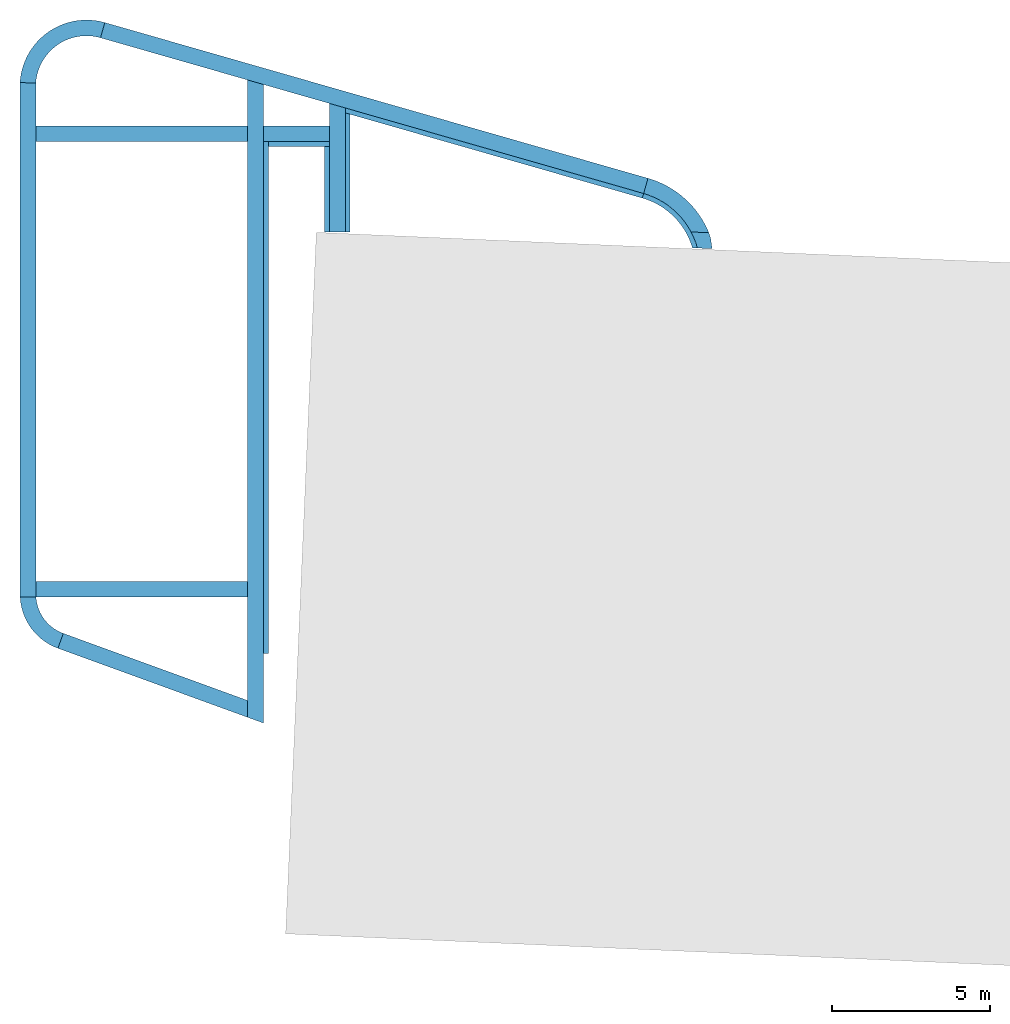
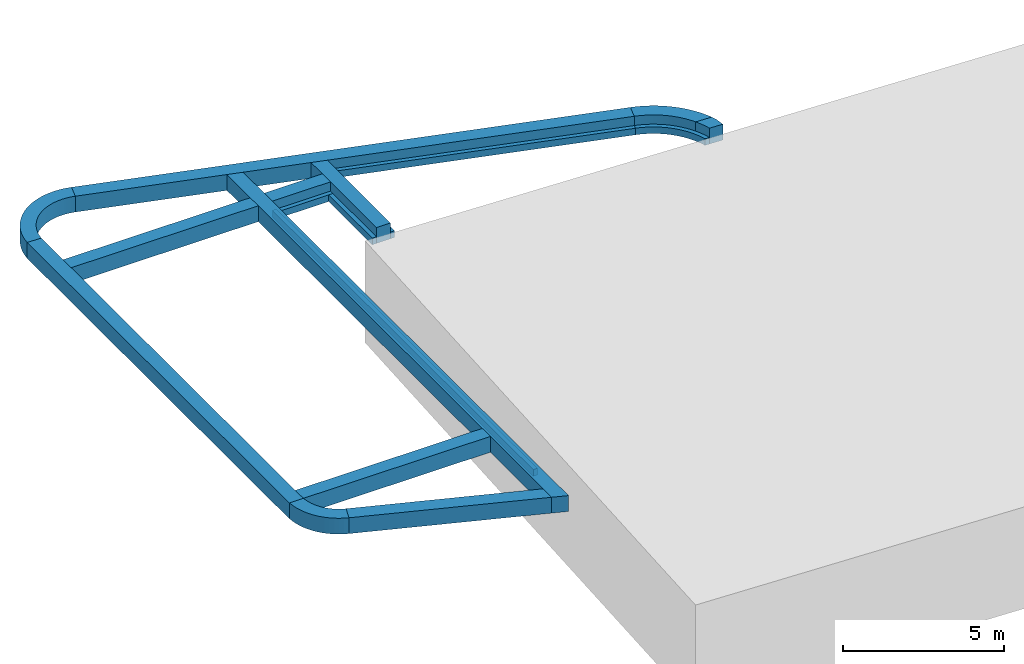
# One storey, part 1 of 2: 17 walls, 3 openings.
"""IFC2X3 building model written with IfcOpenShell, lengths in millimetres."""

from ifc_helpers import new_model, entity, si_unit, converted_unit, derived_unit, direction, frame, frame_2d, origin, origin_2d_with_axis, place, context, subcontext, project, spatial, polyline, circle_curve, parameter, trimmed, segment, composite_curve, rectangle, outline, extrude, material, layer, layer_set, layer_usage, type_object, element, save


model = new_model("IFC2X3")

# Units and contexts
model_context = context("Model", 3, precision=0.01, world=origin(), true_north=direction((6.12303176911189e-17, 1.0)))
context_of_model = context(None, 3, precision=0.01, world=origin(), true_north=direction((6.12303176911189e-17, 1.0)))
body_context = subcontext(model_context, "Body", "Model", "MODEL_VIEW")
ifc_project = project(units=[si_unit("LENGTHUNIT", "METRE", prefix="MILLI"), si_unit("AREAUNIT", "SQUARE_METRE"), si_unit("VOLUMEUNIT", "CUBIC_METRE"), converted_unit("PLANEANGLEUNIT", "DEGREE", entity("IfcRatioMeasure", 0.0174532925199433), si_unit("PLANEANGLEUNIT", "RADIAN"), dimensions=[0, 0, 0, 0, 0, 0, 0]), si_unit("MASSUNIT", "GRAM", prefix="KILO"), derived_unit("MASSDENSITYUNIT", [(si_unit("MASSUNIT", "GRAM", prefix="KILO"), 1), (si_unit("LENGTHUNIT", "METRE"), -3)]), derived_unit("MOMENTOFINERTIAUNIT", [(si_unit("LENGTHUNIT", "METRE"), 4)]), si_unit("TIMEUNIT", "SECOND"), si_unit("FREQUENCYUNIT", "HERTZ"), si_unit("THERMODYNAMICTEMPERATUREUNIT", "DEGREE_CELSIUS"), derived_unit("THERMALTRANSMITTANCEUNIT", [(si_unit("MASSUNIT", "GRAM", prefix="KILO"), 1), (si_unit("THERMODYNAMICTEMPERATUREUNIT", "KELVIN"), -1), (si_unit("TIMEUNIT", "SECOND"), -3)]), derived_unit("VOLUMETRICFLOWRATEUNIT", [(si_unit("LENGTHUNIT", "METRE"), 3), (si_unit("TIMEUNIT", "SECOND"), -1)]), si_unit("ELECTRICCURRENTUNIT", "AMPERE"), si_unit("ELECTRICVOLTAGEUNIT", "VOLT"), si_unit("POWERUNIT", "WATT"), si_unit("FORCEUNIT", "NEWTON", prefix="KILO"), si_unit("ILLUMINANCEUNIT", "LUX"), si_unit("LUMINOUSFLUXUNIT", "LUMEN"), si_unit("LUMINOUSINTENSITYUNIT", "CANDELA"), derived_unit("USERDEFINED", [(si_unit("MASSUNIT", "GRAM", prefix="KILO"), -1), (si_unit("LENGTHUNIT", "METRE"), -2), (si_unit("TIMEUNIT", "SECOND"), 3), (si_unit("LUMINOUSFLUXUNIT", "LUMEN"), 1)]), derived_unit("LINEARVELOCITYUNIT", [(si_unit("LENGTHUNIT", "METRE"), 1), (si_unit("TIMEUNIT", "SECOND"), -1)]), si_unit("PRESSUREUNIT", "PASCAL"), derived_unit("USERDEFINED", [(si_unit("LENGTHUNIT", "METRE"), -2), (si_unit("MASSUNIT", "GRAM", prefix="KILO"), 1), (si_unit("TIMEUNIT", "SECOND"), -2)]), derived_unit("LINEARFORCEUNIT", [(si_unit("MASSUNIT", "GRAM", prefix="KILO"), 1), (si_unit("LENGTHUNIT", "METRE"), 1), (si_unit("TIMEUNIT", "SECOND"), -2), (si_unit("LENGTHUNIT", "METRE"), -1)]), derived_unit("PLANARFORCEUNIT", [(si_unit("MASSUNIT", "GRAM", prefix="KILO"), 1), (si_unit("LENGTHUNIT", "METRE"), 1), (si_unit("TIMEUNIT", "SECOND"), -2), (si_unit("LENGTHUNIT", "METRE"), -2)])], contexts=[model_context, context_of_model])

# Site, building, storey
site_placement = place(None, origin())
site = spatial("IfcSite", under=ifc_project, at=site_placement, Name="Default", CompositionType="ELEMENT")
building_placement = place(site_placement, origin())
building = spatial("IfcBuilding", under=site, at=building_placement, Name="IFc", CompositionType="ELEMENT")
storey_placement = place(building_placement, frame((0.0, 0.0, -4000.0)))
storey = spatial("IfcBuildingStorey", under=building, at=storey_placement, Name="-01 kelder", CompositionType="ELEMENT", Elevation=-4000.0)

# Walls
ifc_material = material(Name="IMd_beton_IHWG")
ifc_layer_1 = layer(ifc_material, 500.0)
ifc_layer_set_1 = layer_set([ifc_layer_1], Name="Basic Wall:NLRS_16_WA Funderingsbalk_beton_ihwg_500x600")
ifc_layer_usage_1 = layer_usage(ifc_layer_set_1, "AXIS2", "NEGATIVE", 250.0)
wall_type_1 = type_object("IfcWallType", Name="Basic Wall:NLRS_16_WA Funderingsbalk_beton_ihwg_500x600", PredefinedType="STANDARD", material=ifc_layer_set_1)
wall_1_placement = place(storey_placement, frame((9975.0, 9742.36620902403, 2860.0), z_axis=(0.0, 0.0, 1.0), x_axis=(0.0, 1.0, 0.0)))
element("IfcWallStandardCase", 1, at=wall_1_placement, inside=storey, type_object=wall_type_1, material=ifc_layer_usage_1, Name="Basic Wall:NLRS_16_WA Funderingsbalk_beton_ihwg_500x600", ObjectType="Basic Wall:NLRS_16_WA Funderingsbalk_beton_ihwg_500x600", context=body_context, shape_type="SweptSolid", body=[
    extrude(outline(composite_curve([segment(polyline([(-278.974140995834, -6930.29688989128), (-273.394417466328, -6930.29688989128)]), True, "CONTINUOUS"), segment(trimmed(circle_curve(frame_2d((1540.26098666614, -6833.29525455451), x_axis=(1.0, 0.0)), 1816.2475718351), [parameter(182.82035819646)], [parameter(183.061493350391)], True, "PARAMETER"), False, "CONTINUOUS"), segment(polyline([(-273.786595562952, -6922.66309891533), (221.025859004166, -6922.66309891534)]), True, "CONTINUOUS"), segment(polyline([(221.025859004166, -6922.66309891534), (221.025859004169, -6422.66309891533)]), True, "CONTINUOUS"), segment(polyline([(221.025859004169, -6422.66309891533), (221.025859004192, 7477.33690108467)]), True, "CONTINUOUS"), segment(polyline([(221.025859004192, 7477.33690108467), (221.025859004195, 7977.33690108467)]), True, "CONTINUOUS"), segment(polyline([(221.025859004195, 7977.33690108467), (221.025859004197, 9328.86361493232)]), True, "CONTINUOUS"), segment(polyline([(221.025859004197, 9328.86361493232), (-278.974140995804, 9345.04565942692)]), True, "CONTINUOUS"), segment(polyline([(-278.974140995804, 9345.04565942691), (-278.974140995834, -6930.29688989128)]), True, "CONTINUOUS")], self_intersect=False)), frame((6930.29688989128, -28.9741409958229, 0.0), z_axis=(0.0, 0.0, 1.0), x_axis=(0.0, -1.0, 0.0)), (0.0, 0.0, 1.0), 600.0),
])
ifc_layer_usage_2 = layer_usage(ifc_layer_set_1, "AXIS2", "NEGATIVE", 250.0)
wall_2_placement = place(storey_placement, frame((12338.8220151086, 27674.3312293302, 2860.0), z_axis=(0.0, 0.0, 1.0), x_axis=(0.961261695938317, -0.275637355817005, 0.0)))
element("IfcWallStandardCase", 2, at=wall_2_placement, inside=storey, type_object=wall_type_1, material=ifc_layer_usage_2, Name="Basic Wall:NLRS_16_WA Funderingsbalk_beton_ihwg_500x600", ObjectType="Basic Wall:NLRS_16_WA Funderingsbalk_beton_ihwg_500x600", context=body_context, shape_type="SweptSolid", body=[
    extrude(rectangle(XDim=17864.4900576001, YDim=500.000000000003, at=frame_2d((8932.24502880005, 5.11590769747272e-13), x_axis=(-1.0, 0.0))), origin(), (0.0, 0.0, 1.0), 600.0),
])
ifc_layer_usage_3 = layer_usage(ifc_layer_set_1, "AXIS2", "NEGATIVE", 250.0)
wall_3_placement = place(storey_placement, frame((11008.5469086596, 8367.57655878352, 2860.0), z_axis=(0.0, 0.0, 1.0), x_axis=(0.939692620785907, -0.342020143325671, 0.0)))
element("IfcWallStandardCase", 3, at=wall_3_placement, inside=storey, type_object=wall_type_1, material=ifc_layer_usage_3, Name="Basic Wall:NLRS_16_WA Funderingsbalk_beton_ihwg_500x600", ObjectType="Basic Wall:NLRS_16_WA Funderingsbalk_beton_ihwg_500x600", context=body_context, shape_type="SweptSolid", body=[
    extrude(outline(polyline([(6387.15043026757, -250.0), (6205.16531313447, 250.0), (0.0, 250.0), (0.0, -250.0), (6387.15043026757, -250.0)])), origin(), (0.0, 0.0, 1.0), 600.0),
])
ifc_layer_usage_4 = layer_usage(ifc_layer_set_1, "AXIS2", "POSITIVE", -250.0)
wall_4_placement = place(storey_placement, frame((9974.54103596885, 26002.5670488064, 2860.0)))
element("IfcWallStandardCase", 4, at=wall_4_placement, inside=storey, type_object=wall_type_1, material=ifc_layer_usage_4, Name="Basic Wall:NLRS_16_WA Funderingsbalk_beton_ihwg_500x600", ObjectType="Basic Wall:NLRS_16_WA Funderingsbalk_beton_ihwg_500x600", context=body_context, shape_type="SweptSolid", body=[
    extrude(outline(composite_curve([segment(trimmed(circle_curve(frame_2d((1852.67524021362, -112.417062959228), x_axis=(1.0, 0.0)), 2106.08274108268), [parameter(74.0000000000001)], [parameter(176.52765062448)], True, "PARAMETER"), True, "CONTINUOUS"), segment(polyline([(-249.541035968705, 15.1417095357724), (250.458964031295, -1.04033495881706)]), True, "CONTINUOUS"), segment(trimmed(circle_curve(frame_2d((1852.67524021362, -112.417062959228), x_axis=(1.0, 0.0)), 1606.08274108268), [parameter(74.0000000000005)], [parameter(176.023528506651)], True, "PARAMETER"), False, "CONTINUOUS"), segment(polyline([(2295.37164018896, 1431.44875655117), (2433.19031809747, 1912.07960452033)]), True, "CONTINUOUS")], self_intersect=False)), origin(), (0.0, 0.0, 1.0), 600.0),
])
ifc_layer_usage_5 = layer_usage(ifc_layer_set_1, "AXIS2", "POSITIVE", -250.0)
wall_5_placement = place(storey_placement, frame((11008.5469086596, 8367.5765587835, 2860.0)))
element("IfcWallStandardCase", 5, at=wall_5_placement, inside=storey, type_object=wall_type_1, material=ifc_layer_usage_5, Name="Basic Wall:NLRS_16_WA Funderingsbalk_beton_ihwg_500x600", ObjectType="Basic Wall:NLRS_16_WA Funderingsbalk_beton_ihwg_500x600", context=body_context, shape_type="SweptSolid", body=[
    extrude(outline(composite_curve([segment(polyline([(-1278.35936322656, 1382.42344121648), (-1278.16706997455, 1378.60205418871)]), True, "CONTINUOUS"), segment(polyline([(-1278.16706997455, 1378.60205418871), (-1277.96531871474, 1374.77321651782)]), True, "CONTINUOUS"), segment(polyline([(-1277.96531871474, 1374.77321651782), (-1263.57093123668, 1223.95716266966)]), True, "CONTINUOUS"), segment(polyline([(-1263.57093123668, 1223.95716266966), (-1236.65189549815, 1074.84574683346)]), True, "CONTINUOUS"), segment(polyline([(-1236.65189549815, 1074.84574683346), (-1197.39763269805, 928.497007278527)]), True, "CONTINUOUS"), segment(polyline([(-1197.39763269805, 928.497007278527), (-1146.08134519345, 785.929510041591)]), True, "CONTINUOUS"), segment(polyline([(-1146.08134519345, 785.929510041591), (-1083.06018531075, 648.135504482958)]), True, "CONTINUOUS"), segment(polyline([(-1083.06018531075, 648.135504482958), (-1008.7727696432, 516.074017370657)]), True, "CONTINUOUS"), segment(polyline([(-1008.7727696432, 516.074017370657), (-923.736126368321, 390.664178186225)]), True, "CONTINUOUS"), segment(polyline([(-923.736126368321, 390.664178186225), (-828.542096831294, 272.778822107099)]), True, "CONTINUOUS"), segment(polyline([(-828.542096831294, 272.778822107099), (-723.853216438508, 163.238415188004)]), True, "CONTINUOUS"), segment(polyline([(-723.853216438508, 163.238415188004), (-610.398103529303, 62.8053440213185)]), True, "CONTINUOUS"), segment(polyline([(-610.398103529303, 62.8053440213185), (-488.966388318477, -27.8213903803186)]), True, "CONTINUOUS"), segment(polyline([(-488.966388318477, -27.8213903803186), (-360.403217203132, -108.011037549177)]), True, "CONTINUOUS"), segment(polyline([(-360.403217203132, -108.011037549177), (-225.603373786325, -177.205486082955)]), True, "CONTINUOUS"), segment(polyline([(-225.603373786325, -177.205486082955), (-85.5050358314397, -234.923155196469)]), True, "CONTINUOUS"), segment(polyline([(-85.5050358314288, -234.923155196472), (85.505035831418, 234.923155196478)]), True, "CONTINUOUS"), segment(trimmed(circle_curve(frame_2d((535.688219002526, 1471.79128557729), x_axis=(1.0, 0.0)), 1316.2475718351), [parameter(183.893144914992)], [parameter(250.0)], True, "PARAMETER"), False, "CONTINUOUS"), segment(polyline([(-777.521992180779, 1382.42344121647), (-783.546908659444, 1382.42344121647)]), True, "CONTINUOUS"), segment(polyline([(-783.546908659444, 1382.42344121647), (-1278.35936322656, 1382.42344121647)]), True, "CONTINUOUS")], self_intersect=False)), origin(), (0.0, 0.0, 1.0), 600.0),
])
ifc_layer_usage_6 = layer_usage(ifc_layer_set_1, "AXIS2", "POSITIVE", -250.0)
wall_6_placement = place(storey_placement, frame((29511.2720249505, 22750.2104268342, 2860.0)))
element("IfcWallStandardCase", 6, at=wall_6_placement, inside=storey, type_object=wall_type_1, material=ifc_layer_usage_6, Name="Basic Wall:NLRS_16_WA Funderingsbalk_beton_ihwg_500x600", ObjectType="Basic Wall:NLRS_16_WA Funderingsbalk_beton_ihwg_500x600", context=body_context, shape_type="SweptSolid", body=[
    extrude(outline(composite_curve([segment(trimmed(circle_curve(frame_2d((-748.355421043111, -2609.82550447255), x_axis=(1.0, 0.0)), 2965.0), [parameter(22.4073809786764)], [parameter(73.9999999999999)], True, "PARAMETER"), True, "CONTINUOUS"), segment(polyline([(68.9093389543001, 240.315423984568), (-68.9093389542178, -240.315423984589)]), True, "CONTINUOUS"), segment(trimmed(circle_curve(frame_2d((-748.355421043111, -2609.82550447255), x_axis=(1.0, 0.0)), 2465.0), [parameter(27.9370449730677)], [parameter(74.0000000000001)], True, "PARAMETER"), False, "CONTINUOUS"), segment(polyline([(1429.38063289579, -1454.9702410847), (1992.77799285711, -1479.59870988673)]), True, "CONTINUOUS")], self_intersect=False)), origin(), (0.0, 0.0, 1.0), 600.0),
])
ifc_layer_usage_7 = layer_usage(ifc_layer_set_1, "AXIS2", "NEGATIVE", 250.0)
wall_7_placement = place(storey_placement, frame((17175.0, 5766.1341808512, 2860.0), z_axis=(0.0, 0.0, 1.0), x_axis=(0.0, 1.0, 0.0)))
element("IfcWallStandardCase", 7, at=wall_7_placement, inside=storey, type_object=wall_type_1, material=ifc_layer_usage_7, Name="Basic Wall:NLRS_16_WA Funderingsbalk_beton_ihwg_500x600", ObjectType="Basic Wall:NLRS_16_WA Funderingsbalk_beton_ihwg_500x600", context=body_context, shape_type="SweptSolid", body=[
    extrude(outline(polyline([(20189.6841211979, -250.0), (20333.0568140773, 250.0), (18883.8658191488, 250.0), (18383.8658191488, 250.0), (4483.86581914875, 250.0), (3983.86581914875, 250.0), (714.07400337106, 250.0), (181.985117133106, 250.0), (0.0, -250.0), (2193.86581914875, -250.0), (18383.8658191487, -250.0), (18883.8658191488, -250.0), (20189.6841211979, -250.0)])), origin(), (0.0, 0.0, 1.0), 600.0),
])
ifc_layer_usage_8 = layer_usage(ifc_layer_set_1, "AXIS2", "NEGATIVE", 250.0)
wall_8_placement = place(storey_placement, frame((16925.0, 10000.0, 2860.0), z_axis=(0.0, 0.0, 1.0), x_axis=(-1.0, 0.0, 0.0)))
element("IfcWallStandardCase", 8, at=wall_8_placement, inside=storey, type_object=wall_type_1, material=ifc_layer_usage_8, Name="Basic Wall:NLRS_16_WA Funderingsbalk_beton_ihwg_500x600", ObjectType="Basic Wall:NLRS_16_WA Funderingsbalk_beton_ihwg_500x600", context=body_context, shape_type="SweptSolid", body=[
    extrude(rectangle(XDim=6700.0, YDim=499.999999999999, at=frame_2d((3350.0, 3.83693077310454e-13), x_axis=(-1.0, 0.0))), origin(), (0.0, 0.0, 1.0), 600.0),
])

# Wall, opening
ifc_layer_usage_9 = layer_usage(ifc_layer_set_1, "AXIS2", "NEGATIVE", 250.0)
wall_9_placement = place(storey_placement, frame((19509.6696056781, 24400.0, 2860.0), z_axis=(0.0, 0.0, 1.0), x_axis=(-1.0, 0.0, 0.0)))
wall_9 = element("IfcWallStandardCase", 9, at=wall_9_placement, inside=storey, type_object=wall_type_1, material=ifc_layer_usage_9, Name="Basic Wall:NLRS_16_WA Funderingsbalk_beton_ihwg_500x600", ObjectType="Basic Wall:NLRS_16_WA Funderingsbalk_beton_ihwg_500x600", context=body_context, shape_type="SweptSolid", body=[
    extrude(rectangle(XDim=9284.66960567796, YDim=499.999999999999, at=frame_2d((4642.33480283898, -1.77635683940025e-12), x_axis=(-1.0, 0.0))), origin(), (0.0, 0.0, 1.0), 600.0),
])
opening_1_placement = place(storey_placement, frame((19509.6696056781, 24400.0, 2860.0), z_axis=(0.0, 0.0, 1.0), x_axis=(-1.0, 0.0, 0.0)))
element("IfcOpeningElement", 10, at=opening_1_placement, cuts=wall_9, Name="Basic Wall:NLRS_16_WA Funderingsbalk_beton_ihwg_500x600:1", ObjectType="Opening", context=body_context, shape_type="SweptSolid", body=[
    extrude(rectangle(XDim=600.0, YDim=499.999999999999, at=origin_2d_with_axis()), frame((2584.66960567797, 0.0, 300.0), z_axis=(-1.0, 0.0, 0.0), x_axis=(0.0, 0.0, 1.0)), (0.0, 0.0, 1.0), 499.999999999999),
])

# Wall
ifc_layer_usage_10 = layer_usage(ifc_layer_set_1, "AXIS2", "NEGATIVE", 250.0)
wall_10_placement = place(storey_placement, frame((19759.6696056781, 21297.7376053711, 2860.0), z_axis=(0.0, 0.0, 1.0), x_axis=(0.0, 1.0, 0.0)))
element("IfcWallStandardCase", 11, at=wall_10_placement, inside=storey, type_object=wall_type_1, material=ifc_layer_usage_10, Name="Basic Wall:NLRS_16_WA Funderingsbalk_beton_ihwg_500x600", ObjectType="Basic Wall:NLRS_16_WA Funderingsbalk_beton_ihwg_500x600", context=body_context, shape_type="SweptSolid", body=[
    extrude(outline(polyline([(3916.93861353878, -250.0), (4060.31130641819, 250.0), (3352.26239462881, 250.0), (2852.26239462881, 250.0), (2702.26239462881, 250.0), (0.0, 250.0), (0.0, -250.0), (3916.93861353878, -250.0)])), origin(), (0.0, 0.0, 1.0), 600.0),
])

# Wall, openings
ifc_layer_usage_11 = layer_usage(ifc_layer_set_1, "AXIS2", "NEGATIVE", 250.0)
wall_11_placement = place(storey_placement, frame((30929.7345330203, 21045.478710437, 2860.0), z_axis=(0.0, 0.0, 1.0), x_axis=(0.999045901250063, -0.0436724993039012, 0.0)))
wall_11 = element("IfcWallStandardCase", 12, at=wall_11_placement, inside=storey, type_object=wall_type_1, material=ifc_layer_usage_11, Name="Basic Wall:NLRS_16_WA Funderingsbalk_beton_ihwg_500x600", ObjectType="Basic Wall:NLRS_16_WA Funderingsbalk_beton_ihwg_500x600", context=body_context, shape_type="SweptSolid", body=[
    extrude(outline(composite_curve([segment(trimmed(circle_curve(frame_2d((-2125.22286300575, -998.860593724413), x_axis=(0.999045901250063, 0.0436724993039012)), 2465.0), [parameter(15.1827813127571)], [parameter(27.9370449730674)], True, "PARAMETER"), False, "CONTINUOUS"), segment(polyline([(223.272998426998, -250.0), (690.153549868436, -250.0)]), True, "CONTINUOUS"), segment(polyline([(690.153549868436, -250.0), (628.727940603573, 79.1482863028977)]), True, "CONTINUOUS"), segment(polyline([(628.727940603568, 79.148286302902), (563.935410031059, 250.0)]), True, "CONTINUOUS"), segment(polyline([(563.935410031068, 250.0), (0.0, 250.0)]), True, "CONTINUOUS")], self_intersect=False)), origin(), (0.0, 0.0, 1.0), 600.0),
])
opening_2_placement = place(wall_11_placement, origin())
element("IfcOpeningElement", 13, at=opening_2_placement, cuts=wall_11, Name="Basic Wall:NLRS_16_WA Funderingsbalk_beton_ihwg_500x600", ObjectType="Recess", context=body_context, shape_type="SweptSolid", body=[
    extrude(rectangle(XDim=700.000000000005, YDim=139.999999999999, at=frame_2d((-2.1458390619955e-12, -8.5265128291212e-14), x_axis=(0.0, 1.0))), frame((770.544514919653, -299.204049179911, 350.0), z_axis=(-0.183452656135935, 0.983028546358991, 0.0), x_axis=(-0.983028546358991, -0.183452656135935, 0.0)), (0.0, 0.0, 1.0), 397.947773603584),
])
opening_3_placement = place(wall_11_placement, origin())
element("IfcOpeningElement", 14, at=opening_3_placement, cuts=wall_11, Name="Basic Wall:NLRS_16_WA Funderingsbalk_beton_ihwg_500x600", ObjectType="Recess", context=body_context, shape_type="SweptSolid", body=[
    extrude(rectangle(XDim=700.000000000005, YDim=139.999999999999, at=frame_2d((4.79616346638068e-12, 8.5265128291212e-14), x_axis=(0.0, 1.0))), frame((742.163932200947, -22.5608493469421, 350.0), z_axis=(-0.354590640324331, 0.935021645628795, 0.0), x_axis=(-0.935021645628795, -0.354590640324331, 0.0)), (0.0, 0.0, 1.0), 318.048459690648),
])

# Walls
ifc_layer_2 = layer(ifc_material, 150.0)
ifc_layer_set_2 = layer_set([ifc_layer_2], Name="Basic Wall:NLRS_16_WA Funderingsnok_beton_ihwg_250x150")
ifc_layer_usage_12 = layer_usage(ifc_layer_set_2, "AXIS2", "NEGATIVE", 75.0)
wall_type_2 = type_object("IfcWallType", Name="Basic Wall:NLRS_16_WA Funderingsnok_beton_ihwg_250x150", PredefinedType="STANDARD", material=ifc_layer_set_2)
wall_12_placement = place(storey_placement, frame((17500.0, 7960.0, 2860.0), z_axis=(0.0, 0.0, 1.0), x_axis=(0.0, 1.0, 0.0)))
element("IfcWallStandardCase", 15, at=wall_12_placement, inside=storey, type_object=wall_type_2, material=ifc_layer_usage_12, Name="Basic Wall:NLRS_16_WA Funderingsnok_beton_ihwg_250x150", ObjectType="Basic Wall:NLRS_16_WA Funderingsnok_beton_ihwg_250x150", context=body_context, shape_type="SweptSolid", body=[
    extrude(rectangle(XDim=16190.0, YDim=150.000000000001, at=frame_2d((8095.0, 4.2632564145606e-13), x_axis=(-1.0, 0.0))), origin(), (0.0, 0.0, 1.0), 250.0),
])
ifc_layer_usage_13 = layer_usage(ifc_layer_set_2, "AXIS2", "NEGATIVE", 75.0)
wall_13_placement = place(storey_placement, frame((17575.0, 24075.0, 2860.0)))
element("IfcWallStandardCase", 16, at=wall_13_placement, inside=storey, type_object=wall_type_2, material=ifc_layer_usage_13, Name="Basic Wall:NLRS_16_WA Funderingsnok_beton_ihwg_250x150", ObjectType="Basic Wall:NLRS_16_WA Funderingsnok_beton_ihwg_250x150", context=body_context, shape_type="SweptSolid", body=[
    extrude(rectangle(XDim=1934.66960567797, YDim=150.000000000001, at=frame_2d((967.334802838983, -3.83693077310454e-13), x_axis=(-1.0, 0.0))), origin(), (0.0, 0.0, 1.0), 250.0),
])
ifc_layer_usage_14 = layer_usage(ifc_layer_set_2, "AXIS2", "NEGATIVE", 75.0)
wall_14_placement = place(storey_placement, frame((19988.9968039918, 25142.5815917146, 2860.0), z_axis=(0.0, 0.0, 1.0), x_axis=(0.961261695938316, -0.275637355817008, 0.0)))
element("IfcWallStandardCase", 17, at=wall_14_placement, inside=storey, type_object=wall_type_2, material=ifc_layer_usage_14, Name="Basic Wall:NLRS_16_WA Funderingsnok_beton_ihwg_250x150", ObjectType="Basic Wall:NLRS_16_WA Funderingsnok_beton_ihwg_250x150", context=body_context, shape_type="SweptSolid", body=[
    extrude(outline(polyline([(9812.82529011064, -75.0), (9812.82529011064, 75.0), (0.0, 75.0), (43.0118078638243, -75.0), (199.056723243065, -75.0), (9812.82529011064, -75.0)])), origin(), (0.0, 0.0, 1.0), 250.0),
])
ifc_layer_usage_15 = layer_usage(ifc_layer_set_2, "AXIS2", "NEGATIVE", 75.0)
wall_15_placement = place(storey_placement, frame((20084.6696056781, 21297.7376053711, 2860.0), z_axis=(0.0, 0.0, 1.0), x_axis=(0.0, 1.0, 0.0)))
element("IfcWallStandardCase", 18, at=wall_15_placement, inside=storey, type_object=wall_type_2, material=ifc_layer_usage_15, Name="Basic Wall:NLRS_16_WA Funderingsnok_beton_ihwg_250x150", ObjectType="Basic Wall:NLRS_16_WA Funderingsnok_beton_ihwg_250x150", context=body_context, shape_type="SweptSolid", body=[
    extrude(outline(polyline([(3717.88189029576, -75.0), (3760.89369815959, 75.0), (0.0, 75.0), (0.0, -75.0), (3717.88189029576, -75.0)])), origin(), (0.0, 0.0, 1.0), 250.0),
])
ifc_layer_usage_16 = layer_usage(ifc_layer_set_2, "AXIS2", "POSITIVE", -75.0)
wall_16_placement = place(storey_placement, frame((29421.68988431, 22437.8003756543, 2860.0)))
element("IfcWallStandardCase", 19, at=wall_16_placement, inside=storey, type_object=wall_type_2, material=ifc_layer_usage_16, Name="Basic Wall:NLRS_16_WA Funderingsnok_beton_ihwg_250x150", ObjectType="Basic Wall:NLRS_16_WA Funderingsnok_beton_ihwg_250x150", context=body_context, shape_type="SweptSolid", body=[
    extrude(outline(composite_curve([segment(polyline([(1720.18649782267, -1651.83403039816), (1680.59115886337, -1520.49909981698)]), True, "CONTINUOUS"), segment(polyline([(1680.59115886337, -1520.49909981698), (1633.75864400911, -1391.58855175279)]), True, "CONTINUOUS"), segment(polyline([(1633.75864400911, -1391.58855175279), (1579.82785887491, -1265.48040726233)]), True, "CONTINUOUS"), segment(polyline([(1579.82785887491, -1265.48040726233), (1518.96789922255, -1142.5713982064)]), True, "CONTINUOUS"), segment(polyline([(1518.96789922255, -1142.5713982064), (1436.76794407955, -999.366156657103)]), True, "CONTINUOUS"), segment(polyline([(1436.76794407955, -999.366156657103), (1345.16799128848, -861.990645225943)]), True, "CONTINUOUS"), segment(polyline([(1345.16799128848, -861.990645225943), (1244.57676416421, -731.055466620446)]), True, "CONTINUOUS"), segment(polyline([(1244.57676416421, -731.055466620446), (1135.44557108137, -607.148103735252)]), True, "CONTINUOUS"), segment(polyline([(1135.44557108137, -607.148103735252), (1018.26403732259, -490.824510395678)]), True, "CONTINUOUS"), segment(polyline([(1018.26403732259, -490.824510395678), (893.557908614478, -382.606616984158)]), True, "CONTINUOUS"), segment(polyline([(893.557908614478, -382.606616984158), (761.886692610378, -282.979988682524)]), True, "CONTINUOUS"), segment(polyline([(761.886692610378, -282.979988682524), (623.841148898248, -192.391646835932)]), True, "CONTINUOUS"), segment(polyline([(623.841148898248, -192.391646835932), (480.040638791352, -111.24806321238)]), True, "CONTINUOUS"), segment(polyline([(480.040638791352, -111.24806321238), (331.130346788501, -39.913336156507)]), True, "CONTINUOUS"), segment(polyline([(331.130346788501, -39.913336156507), (177.778466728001, 21.2924141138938)]), True, "CONTINUOUS"), segment(polyline([(177.778466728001, 21.2924141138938), (20.6728016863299, 72.0946271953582)]), True, "CONTINUOUS"), segment(polyline([(20.6728016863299, 72.0946271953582), (-20.6728016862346, -72.0946271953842)]), True, "CONTINUOUS"), segment(trimmed(circle_curve(frame_2d((-658.773280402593, -2297.41545329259), x_axis=(1.0, 0.0)), 2315.0), [parameter(16.3705805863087)], [parameter(74.0000000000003)], True, "PARAMETER"), False, "CONTINUOUS"), segment(polyline([(1562.37388953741, -1644.93537737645), (1720.18649782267, -1651.83403039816)]), True, "CONTINUOUS")], self_intersect=False)), origin(), (0.0, 0.0, 1.0), 250.0),
])
ifc_layer_usage_17 = layer_usage(ifc_layer_set_2, "AXIS2", "NEGATIVE", 75.0)
wall_17_placement = place(storey_placement, frame((19434.6696056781, 21297.7376053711, 2860.0), z_axis=(0.0, 0.0, 1.0), x_axis=(0.0, 1.0, 0.0)))
element("IfcWallStandardCase", 20, at=wall_17_placement, inside=storey, type_object=wall_type_2, material=ifc_layer_usage_17, Name="Basic Wall:NLRS_16_WA Funderingsnok_beton_ihwg_250x150", ObjectType="Basic Wall:NLRS_16_WA Funderingsnok_beton_ihwg_250x150", context=body_context, shape_type="SweptSolid", body=[
    extrude(rectangle(XDim=2702.26239462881, YDim=150.000000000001, at=frame_2d((1351.13119731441, 0.0), x_axis=(-1.0, 0.0))), origin(), (0.0, 0.0, 1.0), 250.0),
])

save(model, "model.ifc")
